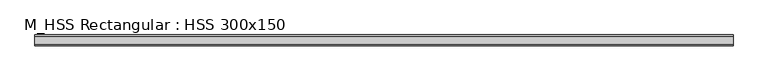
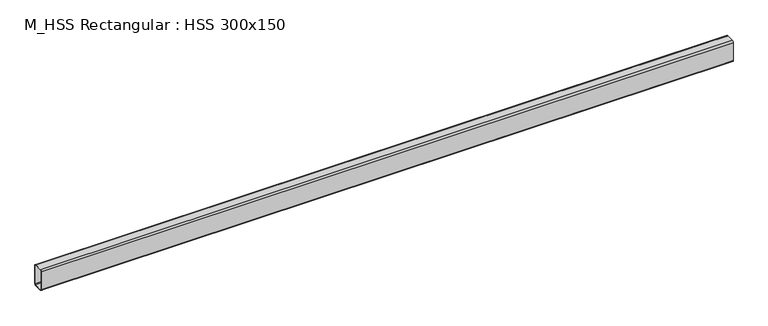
"""IFC4 building model written with IfcOpenShell, lengths in millimetres: beam geometry, M_HSS Rectangular : HSS 300x150."""

from ifc_helpers import new_model, si_unit, point, frame, frame_2d, origin, place, context, project, spatial, polyline, circle_curve, trimmed, segment, composite_curve, outline, extrude, source, transform, mapped, element, save


def m_hss_rectangular_hss_300x150_f2dc2021(model_context):
    return source(origin(), model_context, "Body", "SweptSolid", [
        extrude(outline(composite_curve([segment(trimmed(circle_curve(frame_2d((-55.94, 130.94)), 19.06), [point((-75.0, 130.94))], [point((-55.94, 150.0))], False, "CARTESIAN"), True, "CONTINUOUS"), segment(polyline([(-55.94, 150.0), (55.94, 150.0)]), True, "CONTINUOUS"), segment(trimmed(circle_curve(frame_2d((55.94, 130.94)), 19.06), [point((55.94, 150.0))], [point((75.0, 130.94))], False, "CARTESIAN"), True, "CONTINUOUS"), segment(polyline([(75.0, 130.94), (75.0, -130.94)]), True, "CONTINUOUS"), segment(trimmed(circle_curve(frame_2d((55.94, -130.94)), 19.06), [point((75.0, -130.94))], [point((55.94, -150.0))], False, "CARTESIAN"), True, "CONTINUOUS"), segment(polyline([(55.94, -150.0), (-55.94, -150.0)]), True, "CONTINUOUS"), segment(trimmed(circle_curve(frame_2d((-55.94, -130.94)), 19.06), [point((-55.94, -150.0))], [point((-75.0, -130.94))], False, "CARTESIAN"), True, "CONTINUOUS"), segment(polyline([(-75.0, -130.94), (-75.0, 130.94)]), True, "CONTINUOUS")], self_intersect=False), holes=[composite_curve([segment(polyline([(55.94, 140.47), (-55.94, 140.47)]), True, "CONTINUOUS"), segment(trimmed(circle_curve(frame_2d((-55.94, 130.94)), 9.53), [point((-55.94, 140.47))], [point((-65.47, 130.94))], True, "CARTESIAN"), True, "CONTINUOUS"), segment(polyline([(-65.47, 130.94), (-65.47, -130.94)]), True, "CONTINUOUS"), segment(trimmed(circle_curve(frame_2d((-55.94, -130.94)), 9.53), [point((-65.47, -130.94))], [point((-55.94, -140.47))], True, "CARTESIAN"), True, "CONTINUOUS"), segment(polyline([(-55.94, -140.47), (55.94, -140.47)]), True, "CONTINUOUS"), segment(trimmed(circle_curve(frame_2d((55.94, -130.94)), 9.53), [point((55.94, -140.47))], [point((65.47, -130.94))], True, "CARTESIAN"), True, "CONTINUOUS"), segment(polyline([(65.47, -130.94), (65.47, 130.94)]), True, "CONTINUOUS"), segment(trimmed(circle_curve(frame_2d((55.94, 130.94)), 9.53), [point((65.47, 130.94))], [point((55.94, 140.47))], True, "CARTESIAN"), True, "CONTINUOUS")], self_intersect=False)]), frame((-4683.25, 0.0, 0.0), z_axis=(1.0, 0.0, 0.0), x_axis=(0.0, 1.0, 0.0)), (0.0, 0.0, 1.0), 9478.8),
    ])


if __name__ == "__main__":
    model = new_model("IFC4")
    model_context = context("Model", 3, world=origin())
    ifc_project = project(units=[si_unit("LENGTHUNIT", "METRE", prefix="MILLI")], contexts=[model_context])
    site = spatial("IfcSite", under=ifc_project)
    building = spatial("IfcBuilding", under=site)
    placement = place(None, origin())
    m_hss_rectangular_hss_300x150_shape = m_hss_rectangular_hss_300x150_f2dc2021(model_context)
    element("IfcBeam", 1, ObjectType="M_HSS Rectangular : HSS 300x150", at=placement, inside=building, context=model_context, shape_type="MappedRepresentation", body=[
        mapped(m_hss_rectangular_hss_300x150_shape, transform((0.0, 0.0, 0.0), x_axis=(1.0, 0.0, 0.0), y_axis=(0.0, 1.0, 0.0), z_axis=(0.0, 0.0, 1.0))),
    ])
    save(model, "model.ifc")
